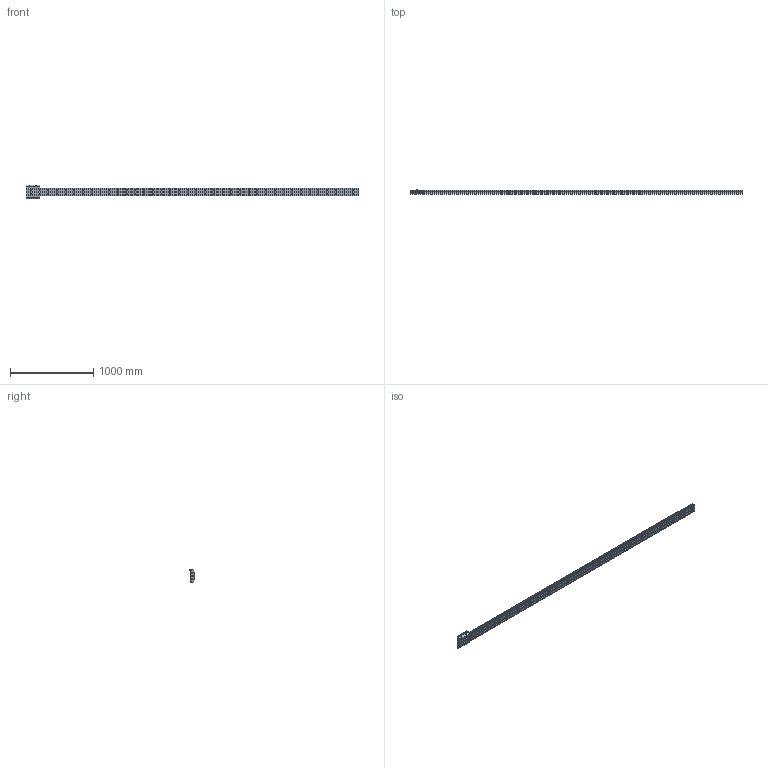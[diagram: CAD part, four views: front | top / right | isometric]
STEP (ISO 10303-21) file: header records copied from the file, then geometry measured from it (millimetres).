
FILE_DESCRIPTION( ( 'STEP AP203' ), '1' );
FILE_NAME( 'p:/temp/worker_9/temp/exporttempdir_1712_551_Vdu1V/format_0/FDI45 84369NV_4000-0-0.stp', '2021-02-04T02:10:40', ( 'License CC BY-ND 4.0' ), ( 'CADENAS' ), ' ', 'PARTsolutions', ' ' );
FILE_SCHEMA( ( 'CONFIG_CONTROL_DESIGN' ) );
Length unit declared in the file: millimetre
Products named in the file (5): FDI45 84369NV_4000-0-0; _FDI_45R 4000-0-0; _FDI_45R Slider_1; _FDI_45R 4000-0-0_2; _FDI_45R Slider_2
Assembly tree (4 placements, depth 2):
  FDI45 84369NV_4000-0-0
    _FDI_45R 4000-0-0
    _FDI_45R Slider_1
    _FDI_45R 4000-0-0_2
    _FDI_45R Slider_2
Bounding box: 4000 x 53.5 x 164.8 mm (x, y, z)
Volume: 14696982 mm3; surface area: 1766315 mm2
Topology: 4 solids, 4 shells, 463 faces, 1210 edges, 825 vertices
Faces by surface type: plane 244, cylinder 193, cone 26
Full cylindrical faces by diameter (mm): 6.647 x8, 10.106 x4, 11 x76, 14 x1, 18 x76
Entity records: 13105 total; most frequent: DIRECTION 2245, CARTESIAN_POINT 2227, ORIENTED_EDGE 1840, EDGE_CURVE 920, AXIS2_PLACEMENT_3D 884, EDGE_LOOP 878, VERTEX_POINT 732, FACE_OUTER_BOUND 626
